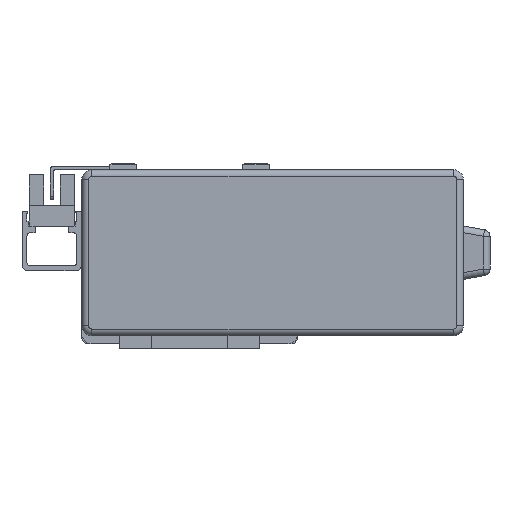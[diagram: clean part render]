
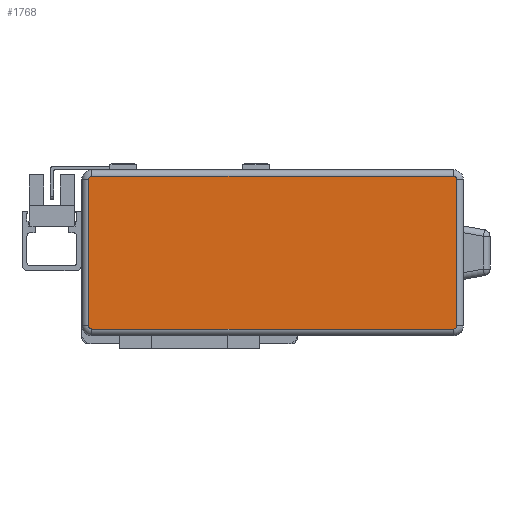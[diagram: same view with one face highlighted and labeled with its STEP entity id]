
A CAD part, left-side view. The second image highlights one B-rep face of the part: STEP entity #1768.
In plain terms, the highlighted planar face has unit normal (-1, 0, 0) as drawn and (0, 0, 1) by its records, which use the part's own axes.
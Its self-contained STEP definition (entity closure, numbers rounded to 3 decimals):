
#4 = VECTOR ( 'NONE', #9530, 1000. ) ;
#195 = DIRECTION ( 'NONE',  ( 0., 0., 1. ) ) ;
#265 = CARTESIAN_POINT ( 'NONE',  ( -54.5, -22., 40. ) ) ;
#383 = CARTESIAN_POINT ( 'NONE',  ( -54.5, 23., 40. ) ) ;
#454 = VERTEX_POINT ( 'NONE', #23346 ) ;
#592 = EDGE_CURVE ( 'NONE', #8132, #10116, #10673, .T. ) ;
#1460 = EDGE_CURVE ( 'NONE', #10746, #454, #10001, .T. ) ;
#1533 = ORIENTED_EDGE ( 'NONE', *, *, #20750, .T. ) ;
#1768 = ADVANCED_FACE ( 'NONE', ( #24650 ), #21852, .F. ) ;
#2213 = LINE ( 'NONE', #16136, #7109 ) ;
#2323 = DIRECTION ( 'NONE',  ( -1., 0., 0. ) ) ;
#2354 = VERTEX_POINT ( 'NONE', #23950 ) ;
#2466 = CARTESIAN_POINT ( 'NONE',  ( 55.5, 0., 40. ) ) ;
#3906 = EDGE_CURVE ( 'NONE', #10116, #4710, #17977, .T. ) ;
#4330 = CIRCLE ( 'NONE', #10437, 1. ) ;
#4385 = VERTEX_POINT ( 'NONE', #21091 ) ;
#4437 = CIRCLE ( 'NONE', #18580, 1. ) ;
#4710 = VERTEX_POINT ( 'NONE', #26386 ) ;
#5234 = VECTOR ( 'NONE', #11546, 1000. ) ;
#5557 = DIRECTION ( 'NONE',  ( 0., 0., 1. ) ) ;
#5938 = DIRECTION ( 'NONE',  ( -1., 0., 0. ) ) ;
#6370 = DIRECTION ( 'NONE',  ( 0., 0., 1. ) ) ;
#6404 = ORIENTED_EDGE ( 'NONE', *, *, #1460, .T. ) ;
#7109 = VECTOR ( 'NONE', #5938, 1000. ) ;
#7340 = CARTESIAN_POINT ( 'NONE',  ( 55.5, -22., 40. ) ) ;
#7460 = CARTESIAN_POINT ( 'NONE',  ( 0., -23., 40. ) ) ;
#7547 = EDGE_CURVE ( 'NONE', #454, #4385, #4330, .T. ) ;
#8132 = VERTEX_POINT ( 'NONE', #20297 ) ;
#8432 = AXIS2_PLACEMENT_3D ( 'NONE', #9628, #23885, #11658 ) ;
#9530 = DIRECTION ( 'NONE',  ( 1., 0., 0. ) ) ;
#9628 = CARTESIAN_POINT ( 'NONE',  ( 0., 0., 40. ) ) ;
#10001 = LINE ( 'NONE', #2466, #15431 ) ;
#10116 = VERTEX_POINT ( 'NONE', #25810 ) ;
#10437 = AXIS2_PLACEMENT_3D ( 'NONE', #18634, #6370, #20666 ) ;
#10529 = EDGE_LOOP ( 'NONE', ( #1533, #23939, #6404, #24197, #23604, #22627, #20179, #26532 ) ) ;
#10673 = LINE ( 'NONE', #25788, #5234 ) ;
#10746 = VERTEX_POINT ( 'NONE', #7340 ) ;
#11546 = DIRECTION ( 'NONE',  ( 0., -1., 0. ) ) ;
#11658 = DIRECTION ( 'NONE',  ( -1., 0., 0. ) ) ;
#12414 = AXIS2_PLACEMENT_3D ( 'NONE', #265, #14682, #2323 ) ;
#12544 = CARTESIAN_POINT ( 'NONE',  ( -54.5, 22., 40. ) ) ;
#14401 = EDGE_CURVE ( 'NONE', #4385, #20460, #2213, .T. ) ;
#14606 = DIRECTION ( 'NONE',  ( -1., 0., 0. ) ) ;
#14682 = DIRECTION ( 'NONE',  ( 0., 0., 1. ) ) ;
#14810 = DIRECTION ( 'NONE',  ( 0., 1., 0. ) ) ;
#15431 = VECTOR ( 'NONE', #14810, 1000. ) ;
#16136 = CARTESIAN_POINT ( 'NONE',  ( 0., 23., 40. ) ) ;
#16299 = EDGE_CURVE ( 'NONE', #20460, #8132, #21786, .T. ) ;
#16447 = LINE ( 'NONE', #7460, #4 ) ;
#17824 = CARTESIAN_POINT ( 'NONE',  ( 54.5, -22., 40. ) ) ;
#17977 = CIRCLE ( 'NONE', #12414, 1. ) ;
#18580 = AXIS2_PLACEMENT_3D ( 'NONE', #17824, #5557, #19876 ) ;
#18634 = CARTESIAN_POINT ( 'NONE',  ( 54.5, 22., 40. ) ) ;
#19876 = DIRECTION ( 'NONE',  ( -1., 0., 0. ) ) ;
#20179 = ORIENTED_EDGE ( 'NONE', *, *, #592, .T. ) ;
#20297 = CARTESIAN_POINT ( 'NONE',  ( -55.5, 22., 40. ) ) ;
#20460 = VERTEX_POINT ( 'NONE', #383 ) ;
#20666 = DIRECTION ( 'NONE',  ( -1., 0., 0. ) ) ;
#20750 = EDGE_CURVE ( 'NONE', #4710, #2354, #16447, .T. ) ;
#21091 = CARTESIAN_POINT ( 'NONE',  ( 54.5, 23., 40. ) ) ;
#21786 = CIRCLE ( 'NONE', #25751, 1. ) ;
#21852 = PLANE ( 'NONE',  #8432 ) ;
#22627 = ORIENTED_EDGE ( 'NONE', *, *, #16299, .T. ) ;
#23346 = CARTESIAN_POINT ( 'NONE',  ( 55.5, 22., 40. ) ) ;
#23604 = ORIENTED_EDGE ( 'NONE', *, *, #14401, .T. ) ;
#23885 = DIRECTION ( 'NONE',  ( 0., 0., -1. ) ) ;
#23939 = ORIENTED_EDGE ( 'NONE', *, *, #23971, .T. ) ;
#23950 = CARTESIAN_POINT ( 'NONE',  ( 54.5, -23., 40. ) ) ;
#23971 = EDGE_CURVE ( 'NONE', #2354, #10746, #4437, .T. ) ;
#24197 = ORIENTED_EDGE ( 'NONE', *, *, #7547, .T. ) ;
#24650 = FACE_OUTER_BOUND ( 'NONE', #10529, .T. ) ;
#25751 = AXIS2_PLACEMENT_3D ( 'NONE', #12544, #195, #14606 ) ;
#25788 = CARTESIAN_POINT ( 'NONE',  ( -55.5, 0., 40. ) ) ;
#25810 = CARTESIAN_POINT ( 'NONE',  ( -55.5, -22., 40. ) ) ;
#26386 = CARTESIAN_POINT ( 'NONE',  ( -54.5, -23., 40. ) ) ;
#26532 = ORIENTED_EDGE ( 'NONE', *, *, #3906, .T. ) ;
